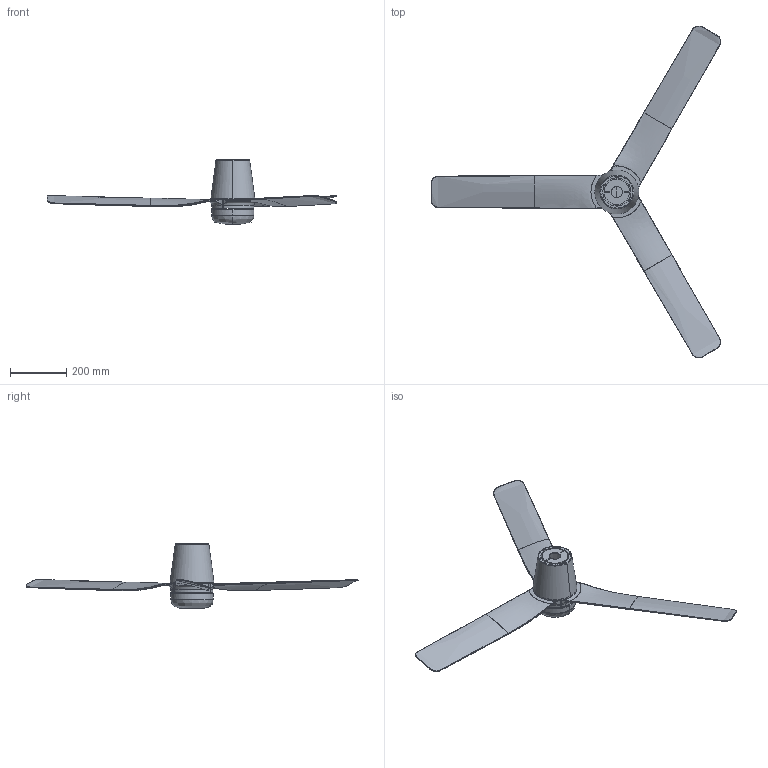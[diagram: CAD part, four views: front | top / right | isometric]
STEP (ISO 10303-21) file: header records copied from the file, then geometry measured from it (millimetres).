
FILE_DESCRIPTION(/* description */ (''),/* implementation_level */ '2;1');
FILE_NAME(/* name */ 'punt_tub_led_medium_3d',/* time_stamp */ '2026-06-02T12:29:16+02:00',/* author */ (''),/* organization */ (''),/* preprocessor_version */ 'ST-DEVELOPER v19.2',/* originating_system */ 'Rhino 8.30',/* authorisation */ '');
FILE_SCHEMA (('CONFIG_CONTROL_DESIGN'));
Products named in the file (11): Document; ADMI22F8DEB74KCX_39_1_1_1_1_1_1; Bloque 18; ADMI22F8DEB74KCX_32_1_1_1_1_1_1; Bloque 17; ADMI22F8DEB74KCX_3_1_1_1_1_1_1_; Bloque 16; Bloque 22; Bloque 21; Bloque 20; Bloque 19
Bounding box: 1029.45 x 1180.16 x 230.47 mm (x, y, z)
Surface area: 787826.7 mm2 (no closed solid volume)
Topology: 0 solids, 2140 shells, 2140 faces, 12104 edges, 12104 vertices
Faces by surface type: plane 1756, bspline 218, cylinder 166
Entity records: 197268 total; most frequent: CARTESIAN_POINT 111221, ORIENTED_EDGE 12104, EDGE_CURVE 12104, VERTEX_POINT 12104, B_SPLINE_CURVE_WITH_KNOTS 11314, DIRECTION 3386, AXIS2_PLACEMENT_3D 2654, EDGE_LOOP 2250
